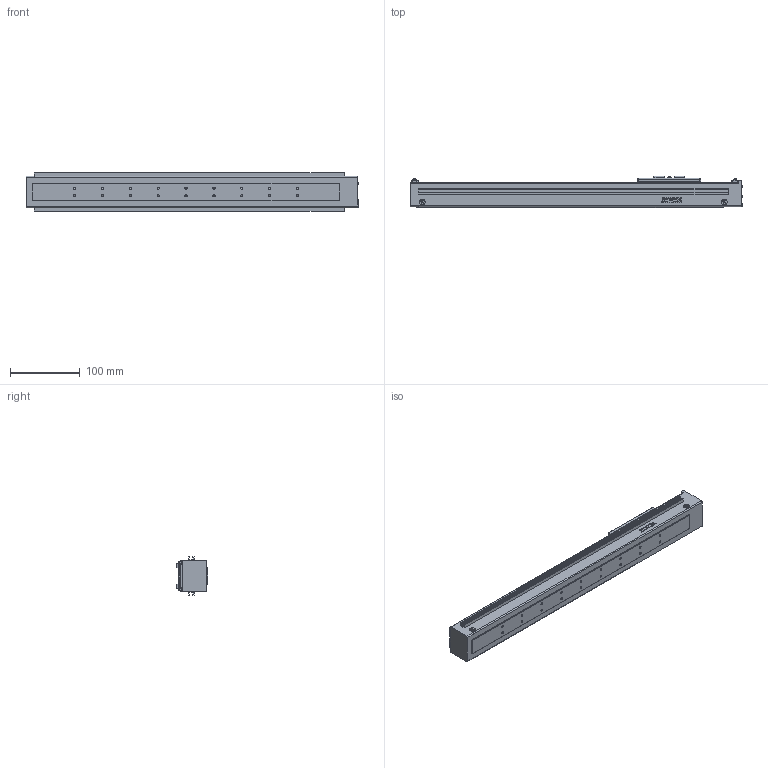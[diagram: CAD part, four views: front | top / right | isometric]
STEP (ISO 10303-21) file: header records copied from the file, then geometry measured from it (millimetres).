
FILE_DESCRIPTION(/* description */ (''),/* implementation_level */ '2;1');
FILE_NAME(/* name */ 'D:\混合母檔20191031\混和母檔\混和母檔\bin\Debug\Download\3D\KE405C-300AF0\KE405C-300AF0.stp',/* time_stamp */ '2019-11-04T13:37:35+08:00',/* author */ ('user'),/* organization */ (''),/* preprocessor_version */ 'ST-DEVELOPER v16.13',/* originating_system */ 'Autodesk Inventor 2018',/* authorisation */ '');
FILE_SCHEMA (('AUTOMOTIVE_DESIGN { 1 0 10303 214 3 1 1 }'));
Length unit declared in the file: millimetre
Products named in the file (3): KE405C-300AF0; KE40-F0-BP; KE40-SL
Assembly tree (2 placements, depth 2):
  KE405C-300AF0
    KE40-F0-BP
    KE40-SL
Bounding box: 477 x 45 x 55 mm (x, y, z)
Volume: 781873.3 mm3; surface area: 118311 mm2
Topology: 3 solids, 15 shells, 946 faces, 2550 edges, 1672 vertices
Faces by surface type: plane 471, cone 164, bspline 136, cylinder 103, torus 62, sphere 10
Full cylindrical faces by diameter (mm): 2.459 x6, 2.5 x2, 2.729 x6, 3 x6, 3.242 x18, 3.3 x4, 3.5 x6, 4 x4, 8.4 x8, 20 x1
Entity records: 34587 total; most frequent: CARTESIAN_POINT 12121, ORIENTED_EDGE 4770, DIRECTION 4284, EDGE_CURVE 2385, VERTEX_POINT 1621, AXIS2_PLACEMENT_3D 1459, LINE 1366, VECTOR 1366
